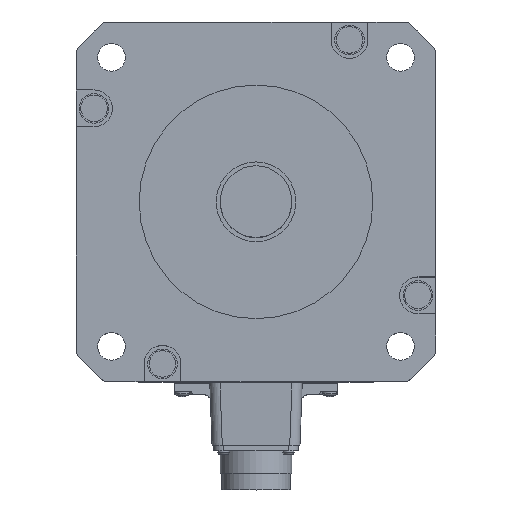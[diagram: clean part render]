
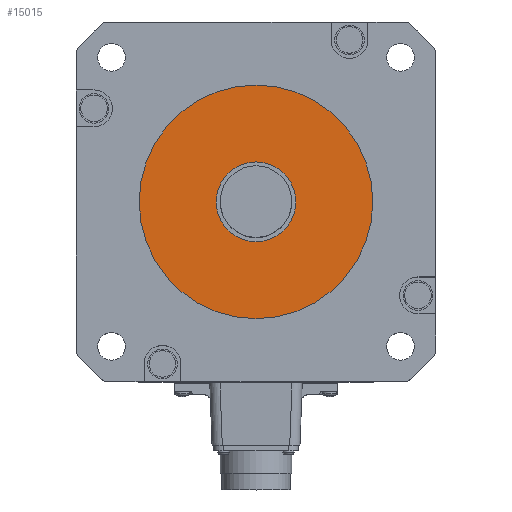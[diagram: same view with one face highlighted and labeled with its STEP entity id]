
A CAD part, top view. The second image highlights one B-rep face of the part: STEP entity #15015.
In plain terms, the highlighted planar face has unit normal (0, 0, 1).
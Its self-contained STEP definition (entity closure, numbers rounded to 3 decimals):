
#5278=CARTESIAN_POINT('',(0.,0.,3.));
#5279=DIRECTION('',(0.,0.,-1.));
#5280=DIRECTION('',(1.,0.,0.));
#5281=AXIS2_PLACEMENT_3D('',#5278,#5279,#5280);
#5283=CARTESIAN_POINT('',(0.,0.,3.));
#5284=DIRECTION('',(0.,0.,-1.));
#5285=DIRECTION('',(-1.,0.,0.));
#5286=AXIS2_PLACEMENT_3D('',#5283,#5284,#5285);
#5288=CARTESIAN_POINT('',(0.,0.,3.));
#5289=DIRECTION('',(0.,0.,1.));
#5290=DIRECTION('',(1.,0.,0.));
#5291=AXIS2_PLACEMENT_3D('',#5288,#5289,#5290);
#5293=CARTESIAN_POINT('',(0.,0.,3.));
#5294=DIRECTION('',(0.,0.,1.));
#5295=DIRECTION('',(-1.,0.,0.));
#5296=AXIS2_PLACEMENT_3D('',#5293,#5294,#5295);
#5918=CARTESIAN_POINT('',(57.15,0.,3.));
#5919=VERTEX_POINT('',#5918);
#5920=CARTESIAN_POINT('',(-57.15,0.,3.));
#5921=VERTEX_POINT('',#5920);
#6913=CARTESIAN_POINT('',(19.5,0.,3.));
#6914=CARTESIAN_POINT('',(-19.5,0.,3.));
#6915=VERTEX_POINT('',#6913);
#6916=VERTEX_POINT('',#6914);
#14999=CARTESIAN_POINT('',(0.,0.,3.));
#15000=DIRECTION('',(0.,0.,1.));
#15001=DIRECTION('',(1.,0.,0.));
#15002=AXIS2_PLACEMENT_3D('',#14999,#15000,#15001);
#15003=PLANE('',#15002);
#15004=ORIENTED_EDGE('',*,*,#14989,.T.);
#15006=ORIENTED_EDGE('',*,*,#15005,.T.);
#15007=EDGE_LOOP('',(#15004,#15006));
#15008=FACE_OUTER_BOUND('',#15007,.F.);
#15010=ORIENTED_EDGE('',*,*,#15009,.T.);
#15012=ORIENTED_EDGE('',*,*,#15011,.T.);
#15013=EDGE_LOOP('',(#15010,#15012));
#15014=FACE_BOUND('',#15013,.F.);
#15015=ADVANCED_FACE('',(#15008,#15014),#15003,.T.);
#5282=CIRCLE('',#5281,57.15);
#5287=CIRCLE('',#5286,57.15);
#5292=CIRCLE('',#5291,19.5);
#5297=CIRCLE('',#5296,19.5);
#14989=EDGE_CURVE('',#5919,#5921,#5282,.T.);
#15005=EDGE_CURVE('',#5921,#5919,#5287,.T.);
#15009=EDGE_CURVE('',#6915,#6916,#5292,.T.);
#15011=EDGE_CURVE('',#6916,#6915,#5297,.T.);
